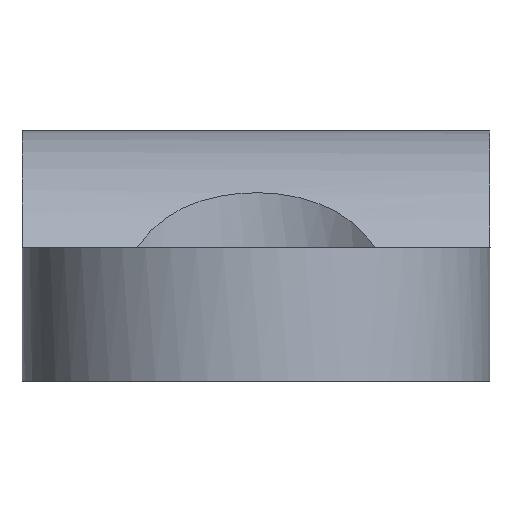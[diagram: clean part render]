
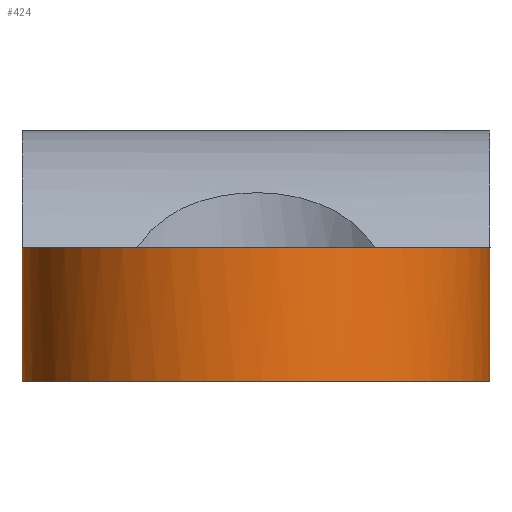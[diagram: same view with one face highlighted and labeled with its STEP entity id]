
A CAD part, front view. The second image highlights one B-rep face of the part: STEP entity #424.
In plain terms, the highlighted cylindrical face has radius 7 mm (diameter 14 mm), a partial arc.
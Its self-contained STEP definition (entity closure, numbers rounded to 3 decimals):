
#52 = AXIS2_PLACEMENT_3D ( 'NONE', #504, #502, #496 ) ;
#65 = EDGE_CURVE ( 'NONE', #892, #251, #945, .T. ) ;
#85 = EDGE_CURVE ( 'NONE', #895, #890, #940, .T. ) ;
#93 = EDGE_CURVE ( 'NONE', #251, #890, #923, .T. ) ;
#96 = EDGE_CURVE ( 'NONE', #895, #892, #938, .T. ) ;
#121 = ORIENTED_EDGE ( 'NONE', *, *, #93, .T. ) ;
#227 = FACE_OUTER_BOUND ( 'NONE', #889, .T. ) ;
#231 = CYLINDRICAL_SURFACE ( 'NONE', #52, 7. ) ;
#251 = VERTEX_POINT ( 'NONE', #606 ) ;
#316 = ORIENTED_EDGE ( 'NONE', *, *, #85, .F. ) ;
#318 = ORIENTED_EDGE ( 'NONE', *, *, #96, .T. ) ;
#323 = ORIENTED_EDGE ( 'NONE', *, *, #65, .T. ) ;
#373 = CARTESIAN_POINT ( 'NONE',  ( 382., 25., 80.68 ) ) ;
#377 = CARTESIAN_POINT ( 'NONE',  ( 382., 25., 83.347 ) ) ;
#380 = CARTESIAN_POINT ( 'NONE',  ( 382., 25., 82.014 ) ) ;
#391 = CARTESIAN_POINT ( 'NONE',  ( 382., 25., 84.68 ) ) ;
#424 = ADVANCED_FACE ( 'NONE', ( #227 ), #231, .T. ) ;
#496 = DIRECTION ( 'NONE',  ( -1., 0., 0. ) ) ;
#502 = DIRECTION ( 'NONE',  ( 0., 0., 1. ) ) ;
#504 = CARTESIAN_POINT ( 'NONE',  ( 389., 25., 80.68 ) ) ;
#540 = CARTESIAN_POINT ( 'NONE',  ( 396., 25., 80.68 ) ) ;
#542 = CARTESIAN_POINT ( 'NONE',  ( 382., 25., 84.68 ) ) ;
#545 = CARTESIAN_POINT ( 'NONE',  ( 396., 25., 84.68 ) ) ;
#606 = CARTESIAN_POINT ( 'NONE',  ( 382., 25., 80.68 ) ) ;
#627 = CARTESIAN_POINT ( 'NONE',  ( 395.818, 23.168, 80.68 ) ) ;
#628 = CARTESIAN_POINT ( 'NONE',  ( 396., 24.084, 80.68 ) ) ;
#629 = CARTESIAN_POINT ( 'NONE',  ( 396., 25., 80.68 ) ) ;
#648 = CARTESIAN_POINT ( 'NONE',  ( 396., 25., 84.68 ) ) ;
#649 = CARTESIAN_POINT ( 'NONE',  ( 396., 24.084, 84.68 ) ) ;
#668 = CARTESIAN_POINT ( 'NONE',  ( 395.818, 23.168, 84.68 ) ) ;
#669 = CARTESIAN_POINT ( 'NONE',  ( 395.117, 21.475, 84.68 ) ) ;
#670 = CARTESIAN_POINT ( 'NONE',  ( 394.598, 20.698, 84.68 ) ) ;
#671 = CARTESIAN_POINT ( 'NONE',  ( 393.302, 19.402, 84.68 ) ) ;
#672 = CARTESIAN_POINT ( 'NONE',  ( 392.525, 18.883, 84.68 ) ) ;
#673 = CARTESIAN_POINT ( 'NONE',  ( 390.832, 18.182, 84.68 ) ) ;
#674 = CARTESIAN_POINT ( 'NONE',  ( 389.916, 18., 84.68 ) ) ;
#675 = CARTESIAN_POINT ( 'NONE',  ( 388.084, 18., 84.68 ) ) ;
#676 = CARTESIAN_POINT ( 'NONE',  ( 387.168, 18.182, 84.68 ) ) ;
#677 = CARTESIAN_POINT ( 'NONE',  ( 385.475, 18.883, 84.68 ) ) ;
#678 = CARTESIAN_POINT ( 'NONE',  ( 384.698, 19.402, 84.68 ) ) ;
#679 = CARTESIAN_POINT ( 'NONE',  ( 383.402, 20.698, 84.68 ) ) ;
#680 = CARTESIAN_POINT ( 'NONE',  ( 382.883, 21.475, 84.68 ) ) ;
#681 = CARTESIAN_POINT ( 'NONE',  ( 382.182, 23.168, 84.68 ) ) ;
#682 = CARTESIAN_POINT ( 'NONE',  ( 382., 24.084, 84.68 ) ) ;
#683 = CARTESIAN_POINT ( 'NONE',  ( 382., 25., 84.68 ) ) ;
#711 = CARTESIAN_POINT ( 'NONE',  ( 395.117, 21.475, 80.68 ) ) ;
#754 = CARTESIAN_POINT ( 'NONE',  ( 396., 25., 83.347 ) ) ;
#755 = CARTESIAN_POINT ( 'NONE',  ( 396., 25., 82.014 ) ) ;
#756 = CARTESIAN_POINT ( 'NONE',  ( 396., 25., 80.68 ) ) ;
#793 = CARTESIAN_POINT ( 'NONE',  ( 382., 24.084, 80.68 ) ) ;
#794 = CARTESIAN_POINT ( 'NONE',  ( 382., 25., 80.68 ) ) ;
#799 = CARTESIAN_POINT ( 'NONE',  ( 382.182, 23.168, 80.68 ) ) ;
#800 = CARTESIAN_POINT ( 'NONE',  ( 382.883, 21.475, 80.68 ) ) ;
#801 = CARTESIAN_POINT ( 'NONE',  ( 383.402, 20.698, 80.68 ) ) ;
#802 = CARTESIAN_POINT ( 'NONE',  ( 384.698, 19.402, 80.68 ) ) ;
#803 = CARTESIAN_POINT ( 'NONE',  ( 385.475, 18.883, 80.68 ) ) ;
#804 = CARTESIAN_POINT ( 'NONE',  ( 387.168, 18.182, 80.68 ) ) ;
#805 = CARTESIAN_POINT ( 'NONE',  ( 388.084, 18., 80.68 ) ) ;
#806 = CARTESIAN_POINT ( 'NONE',  ( 389.916, 18., 80.68 ) ) ;
#807 = CARTESIAN_POINT ( 'NONE',  ( 390.832, 18.182, 80.68 ) ) ;
#808 = CARTESIAN_POINT ( 'NONE',  ( 392.525, 18.883, 80.68 ) ) ;
#809 = CARTESIAN_POINT ( 'NONE',  ( 393.302, 19.402, 80.68 ) ) ;
#810 = CARTESIAN_POINT ( 'NONE',  ( 394.598, 20.698, 80.68 ) ) ;
#884 = CARTESIAN_POINT ( 'NONE',  ( 396., 25., 84.68 ) ) ;
#889 = EDGE_LOOP ( 'NONE', ( #316, #318, #323, #121 ) ) ;
#890 = VERTEX_POINT ( 'NONE', #540 ) ;
#892 = VERTEX_POINT ( 'NONE', #542 ) ;
#895 = VERTEX_POINT ( 'NONE', #545 ) ;
#923 = B_SPLINE_CURVE_WITH_KNOTS ( 'NONE', 3,
 ( #794, #793, #799, #800, #801, #802, #803, #804, #805, #806, #807, #808, #809, #810, #711, #627, #628, #629 ),
 .UNSPECIFIED., .F., .F.,
 ( 4, 2, 2, 2, 2, 2, 2, 2, 4 ),
 ( 0., 0.125, 0.25, 0.375, 0.5, 0.625, 0.75, 0.875, 1. ),
 .UNSPECIFIED. ) ;
#938 = B_SPLINE_CURVE_WITH_KNOTS ( 'NONE', 3,
 ( #648, #649, #668, #669, #670, #671, #672, #673, #674, #675, #676, #677, #678, #679, #680, #681, #682, #683 ),
 .UNSPECIFIED., .F., .F.,
 ( 4, 2, 2, 2, 2, 2, 2, 2, 4 ),
 ( 0., 0.125, 0.25, 0.375, 0.5, 0.625, 0.75, 0.875, 1. ),
 .UNSPECIFIED. ) ;
#940 = B_SPLINE_CURVE_WITH_KNOTS ( 'NONE', 3,
 ( #884, #754, #755, #756 ),
 .UNSPECIFIED., .F., .F.,
 ( 4, 4 ),
 ( 0., 1. ),
 .UNSPECIFIED. ) ;
#945 = B_SPLINE_CURVE_WITH_KNOTS ( 'NONE', 3,
 ( #391, #377, #380, #373 ),
 .UNSPECIFIED., .F., .F.,
 ( 4, 4 ),
 ( 0., 1. ),
 .UNSPECIFIED. ) ;
